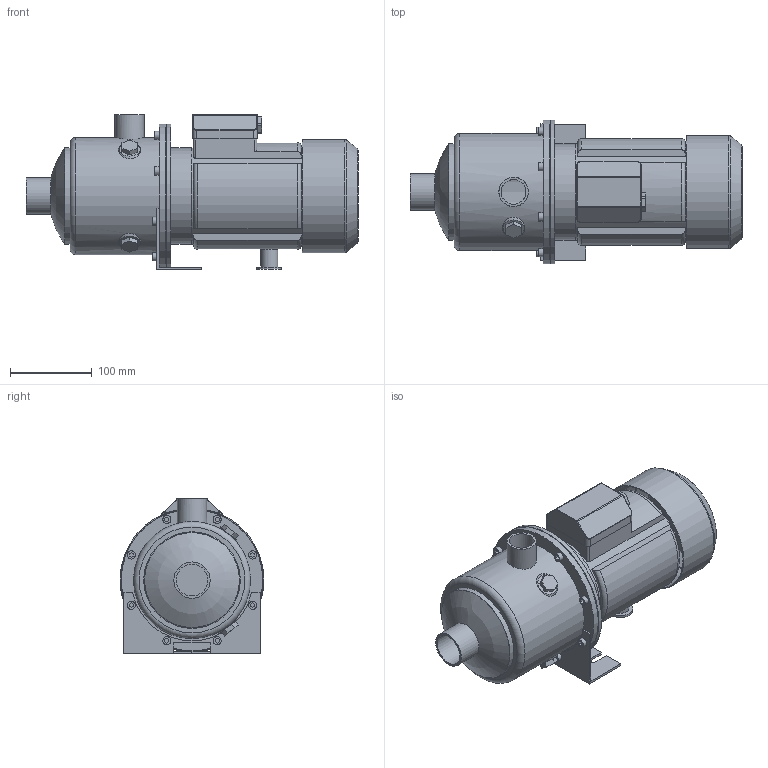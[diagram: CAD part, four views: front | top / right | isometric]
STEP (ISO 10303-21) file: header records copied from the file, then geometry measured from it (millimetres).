
FILE_DESCRIPTION(/* description */ ('Unknown'),/* implementation_level */ '2;1');
FILE_NAME(/* name */ 'MH 3 [4] T',/* time_stamp */ '2026-07-10T14:43:01+02:00',/* author */ ('Unknown'),/* organization */ ('Unknown'),/* preprocessor_version */ 'ST-DEVELOPER v20',/* originating_system */ 'Solid Edge',/* authorisation */ 'Unknown');
FILE_SCHEMA (('AUTOMOTIVE_DESIGN {1 0 10303 214 3 1 1}'));
Length unit declared in the file: millimetre
Products named in the file (10): MH 3 [4] T; Flangia motore Tonda M71; Corpo MH 3-5 [4]; Mot_Wendy_MEC71_075_T; carcassa MEC 71-T_Wendy; Copriventola MEC 71-Wendy; Basetta MEC 71 T-Wendy_new; Piedino MEC 71 int.90; Staffa 3-5-9 int.90
Assembly tree (8 placements, depth 3):
  MH 3 [4] T
    Flangia motore Tonda M71
    Corpo MH 3-5 [4]
    Mot_Wendy_MEC71_075_T
      carcassa MEC 71-T_Wendy
      Copriventola MEC 71-Wendy
      Basetta MEC 71 T-Wendy_new
    Piedino MEC 71 int.90
    Staffa 3-5-9 int.90
  (unnamed)
Bounding box: 407.1 x 176.5 x 190 mm (x, y, z)
Volume: 1442530.9 mm3; surface area: 494067.4 mm2
Topology: 8 solids, 8 shells, 276 faces, 647 edges, 429 vertices
Faces by surface type: plane 163, cylinder 74, torus 19, cone 14, bspline 4, sphere 2
Full cylindrical faces by diameter (mm): 7 x4, 10 x9, 13.5 x1, 17.5 x1, 21 x1, 30 x1, 30.291 x1, 36 x1, 38.952 x1, 44.5 x1, 110 x1, 114 x3, 116.1 x1, 118 x2, 118.5 x1, 136.5 x1, 138.5 x1, 141.1 x1, 143.5 x1, 173.5 x1, 174.1 x1, 176.5 x2
Entity records: 8860 total; most frequent: CARTESIAN_POINT 1595, DIRECTION 1262, ORIENTED_EDGE 1118, EDGE_CURVE 559, AXIS2_PLACEMENT_3D 461, VERTEX_POINT 398, EDGE_LOOP 385, FACE_BOUND 385
